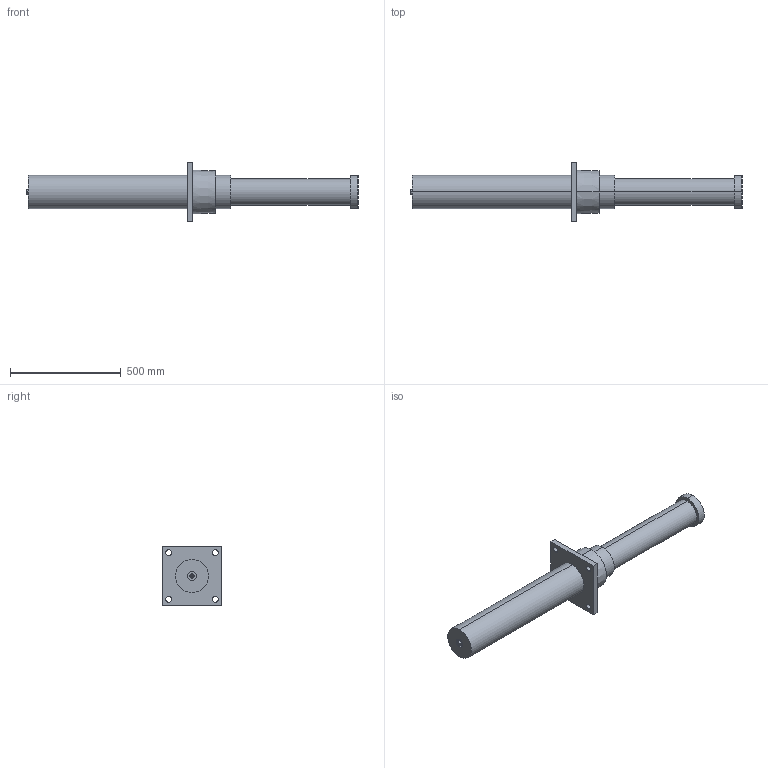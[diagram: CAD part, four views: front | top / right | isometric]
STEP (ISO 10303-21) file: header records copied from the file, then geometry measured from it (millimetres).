
FILE_DESCRIPTION (( 'STEP AP214' ), '1' );
FILE_NAME ('LDH150X500FF.STEP', '2019-01-21T05:03:16', ( 'user' ), ( 'Microsoft' ), 'SwSTEP 2.0', 'SolidWorks 2016', '' );
FILE_SCHEMA (( 'AUTOMOTIVE_DESIGN' ));
Length unit declared in the file: millimetre
Products named in the file (1): LDH150X500FF
Bounding box: 1498 x 270 x 270 mm (x, y, z)
Volume: 25341525 mm3; surface area: 842379.2 mm2
Topology: 1 solids, 5 shells, 63 faces, 136 edges, 90 vertices
Faces by surface type: cylinder 30, plane 29, cone 4
Entity records: 1790 total; most frequent: DIRECTION 338, CARTESIAN_POINT 290, ORIENTED_EDGE 272, AXIS2_PLACEMENT_3D 138, EDGE_CURVE 136, VERTEX_POINT 90, EDGE_LOOP 78, CIRCLE 74
